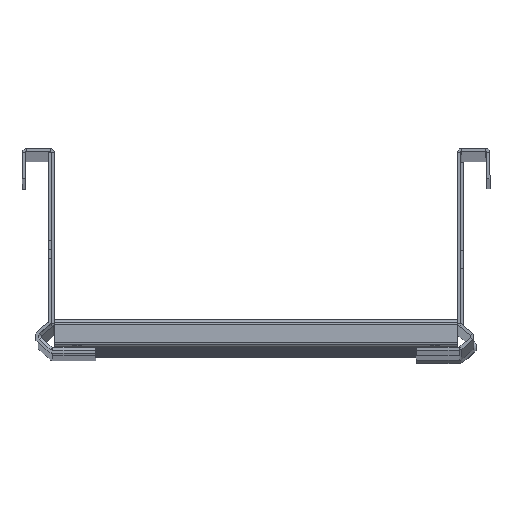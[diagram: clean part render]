
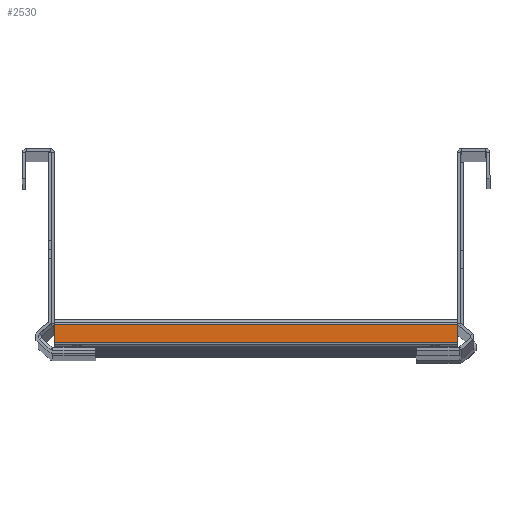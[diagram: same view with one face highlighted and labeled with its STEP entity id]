
A CAD part, top view. The second image highlights one B-rep face of the part: STEP entity #2530.
In plain terms, the highlighted planar face has unit normal (0, 0, 1) as drawn and (-1, 0, 0) by its records, which use the part's own axes.
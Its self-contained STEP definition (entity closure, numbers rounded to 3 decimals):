
#33 = EDGE_CURVE ( 'NONE', #1430, #3055, #3325, .T. ) ;
#161 = DIRECTION ( 'NONE',  ( 0., -1., 0. ) ) ;
#449 = LINE ( 'NONE', #1450, #4155 ) ;
#810 = CARTESIAN_POINT ( 'NONE',  ( -17.5, 11.5, -100. ) ) ;
#811 = DIRECTION ( 'NONE',  ( 0., 0., -1. ) ) ;
#864 = FACE_OUTER_BOUND ( 'NONE', #3236, .T. ) ;
#992 = PLANE ( 'NONE',  #1632 ) ;
#1005 = ORIENTED_EDGE ( 'NONE', *, *, #33, .F. ) ;
#1037 = ORIENTED_EDGE ( 'NONE', *, *, #4583, .T. ) ;
#1074 = ORIENTED_EDGE ( 'NONE', *, *, #1757, .T. ) ;
#1203 = VERTEX_POINT ( 'NONE', #2121 ) ;
#1430 = VERTEX_POINT ( 'NONE', #6023 ) ;
#1450 = CARTESIAN_POINT ( 'NONE',  ( -17.5, 14., -100. ) ) ;
#1488 = DIRECTION ( 'NONE',  ( 0., 0., -1. ) ) ;
#1632 = AXIS2_PLACEMENT_3D ( 'NONE', #3084, #4183, #6278 ) ;
#1665 = ORIENTED_EDGE ( 'NONE', *, *, #3106, .F. ) ;
#1757 = EDGE_CURVE ( 'NONE', #1430, #5534, #5507, .T. ) ;
#2027 = DIRECTION ( 'NONE',  ( 0., -1., 0. ) ) ;
#2091 = VECTOR ( 'NONE', #161, 1000. ) ;
#2121 = CARTESIAN_POINT ( 'NONE',  ( -17.5, 2.5, -100. ) ) ;
#2530 = ADVANCED_FACE ( 'NONE', ( #864 ), #992, .F. ) ;
#2993 = CARTESIAN_POINT ( 'NONE',  ( -17.5, 2.5, 100. ) ) ;
#3055 = VERTEX_POINT ( 'NONE', #2993 ) ;
#3084 = CARTESIAN_POINT ( 'NONE',  ( -17.5, 14., 100. ) ) ;
#3106 = EDGE_CURVE ( 'NONE', #3055, #1203, #3656, .T. ) ;
#3132 = CARTESIAN_POINT ( 'NONE',  ( -17.5, 2.5, 100. ) ) ;
#3236 = EDGE_LOOP ( 'NONE', ( #1037, #1665, #1005, #1074 ) ) ;
#3325 = LINE ( 'NONE', #3977, #2091 ) ;
#3656 = LINE ( 'NONE', #3132, #5565 ) ;
#3977 = CARTESIAN_POINT ( 'NONE',  ( -17.5, 14., 100. ) ) ;
#4155 = VECTOR ( 'NONE', #2027, 1000. ) ;
#4183 = DIRECTION ( 'NONE',  ( 1., 0., 0. ) ) ;
#4505 = VECTOR ( 'NONE', #811, 1000. ) ;
#4583 = EDGE_CURVE ( 'NONE', #5534, #1203, #449, .T. ) ;
#5507 = LINE ( 'NONE', #6427, #4505 ) ;
#5534 = VERTEX_POINT ( 'NONE', #810 ) ;
#5565 = VECTOR ( 'NONE', #1488, 1000. ) ;
#6023 = CARTESIAN_POINT ( 'NONE',  ( -17.5, 11.5, 100. ) ) ;
#6278 = DIRECTION ( 'NONE',  ( 0., 0., -1. ) ) ;
#6427 = CARTESIAN_POINT ( 'NONE',  ( -17.5, 11.5, 100. ) ) ;
